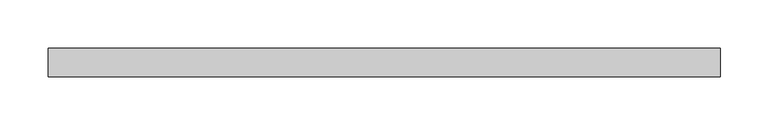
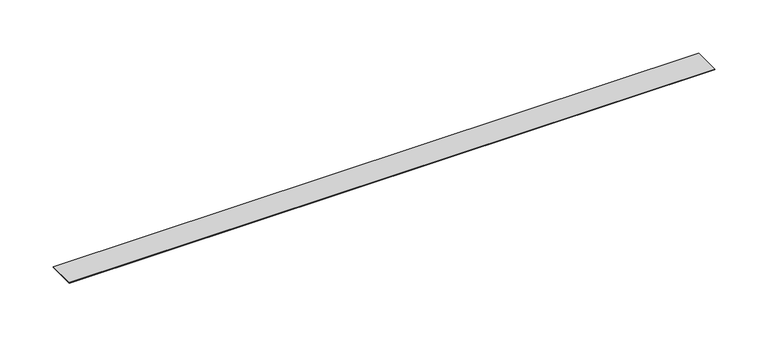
"""IFC4 building model written with IfcOpenShell, lengths in millimetres: proxy geometry, gmod - SOLEIRA INTERNA : BAGUETE 3 cm."""

from ifc_helpers import new_model, si_unit, origin, origin_with_axes, place, context, project, spatial, polyline, outline, extrude, source, transform, mapped, element, save


def generic_models_b3cb257f(model_context):
    return source(origin(), model_context, "Body", "SweptSolid", [
        extrude(outline(polyline([(700.0, 0.0), (0.0, 0.0), (0.0, 30.0), (700.0, 30.0), (700.0, 0.0)])), origin_with_axes(), (0.0, 0.0, 1.0), 1.0),
    ])


if __name__ == "__main__":
    model = new_model("IFC4")
    model_context = context("Model", 3, world=origin())
    ifc_project = project(units=[si_unit("LENGTHUNIT", "METRE", prefix="MILLI")], contexts=[model_context])
    site = spatial("IfcSite", under=ifc_project)
    building = spatial("IfcBuilding", under=site)
    placement = place(None, origin())
    generic_models_shape = generic_models_b3cb257f(model_context)
    element("IfcBuildingElementProxy", 1, Name="gmod - SOLEIRA INTERNA : BAGUETE 3 cm", ObjectType="gmod - SOLEIRA INTERNA : BAGUETE 3 cm", at=placement, inside=building, context=model_context, shape_type="MappedRepresentation", body=[
        mapped(generic_models_shape, transform((0.0, 0.0, 0.0), x_axis=(1.0, 0.0, 0.0), y_axis=(0.0, 1.0, 0.0), z_axis=(0.0, 0.0, 1.0))),
    ])
    save(model, "model.ifc")
